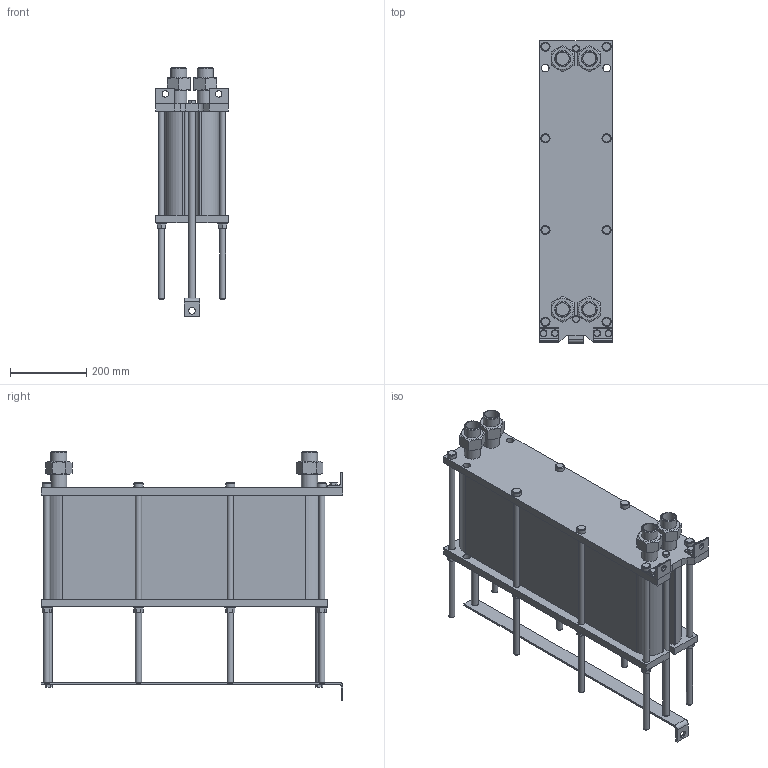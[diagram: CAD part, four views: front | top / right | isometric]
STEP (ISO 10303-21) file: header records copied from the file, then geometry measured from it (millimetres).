
FILE_DESCRIPTION(/* description */ (''),/* implementation_level */ '2;1');
FILE_NAME(/* name */ 'C:\Users\zhuro\Desktop\ENCO\TO\ЭН-008\ЭН-0,5-008-88-1.stp',/* time_stamp */ '2022-06-06T10:53:30+03:00',/* author */ ('zhuro'),/* organization */ (''),/* preprocessor_version */ 'ST-DEVELOPER v18.1',/* originating_system */ 'Autodesk Inventor 2022',/* authorisation */ '');
FILE_SCHEMA (('AUTOMOTIVE_DESIGN { 1 0 10303 214 3 1 1 }'));
Length unit declared in the file: millimetre
Products named in the file (1): ЭН-0,5-008-88-1
Bounding box: 190 x 790 x 651.4 mm (x, y, z)
Volume: 34728540.5 mm3; surface area: 1920018.8 mm2
Topology: 40 solids, 40 shells, 428 faces, 924 edges, 606 vertices
Faces by surface type: plane 273, cylinder 109, cone 40, torus 6
Full cylindrical faces by diameter (mm): 12 x6, 14 x2, 16 x20, 17 x8, 18 x19, 20 x5, 24 x8, 28 x8, 34.3 x8, 42.3 x8
Entity records: 15843 total; most frequent: CARTESIAN_POINT 5991, DIRECTION 1984, ORIENTED_EDGE 1848, EDGE_CURVE 924, AXIS2_PLACEMENT_3D 715, VERTEX_POINT 606, LINE 554, VECTOR 554
